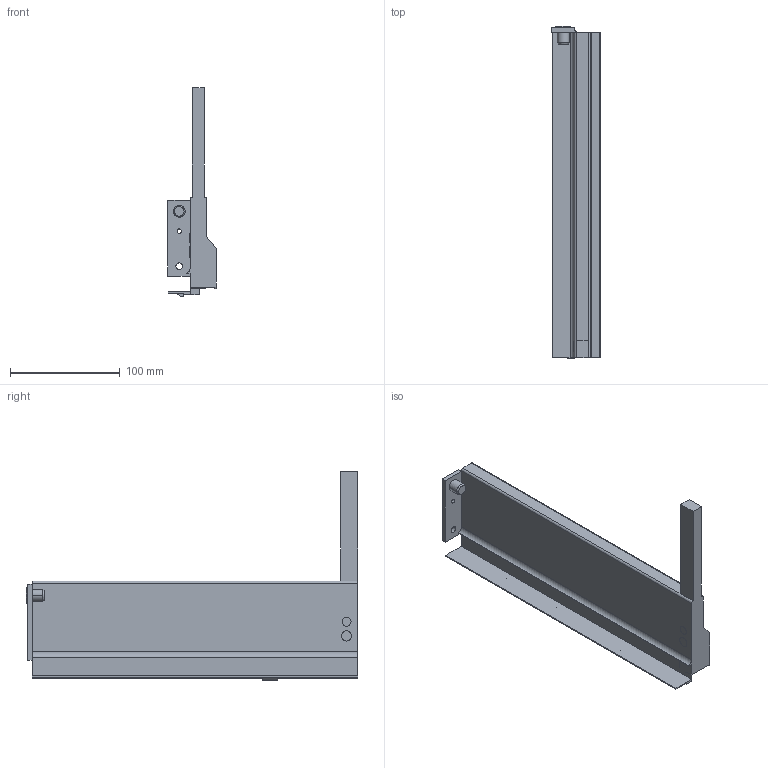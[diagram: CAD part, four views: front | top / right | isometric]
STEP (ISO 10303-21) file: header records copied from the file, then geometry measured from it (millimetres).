
FILE_DESCRIPTION (( 'STEP AP214' ), '1' );
FILE_NAME ('IMOS_NOVA-Pro_Crystal_Dekor-H90_CL_NL300_RE.step', '2010-09-28T09:46:54', ( 'Grass' ), ( '' ), 'SwSTEP 2.0', 'SolidWorks 2010', '' );
FILE_SCHEMA (( 'AUTOMOTIVE_DESIGN' ));
Length unit declared in the file: millimetre
Products named in the file (1): IMOS_NOVA-Pro_Crystal_Dekor-H90_CL_NL300_RE
Bounding box: 44.3 x 302.7 x 190.38 mm (x, y, z)
Volume: 289493.6 mm3; surface area: 111359.9 mm2
Topology: 1 solids, 1 shells, 94 faces, 256 edges, 169 vertices
Faces by surface type: plane 59, cylinder 30, cone 4, bspline 1
Entity records: 3009 total; most frequent: CARTESIAN_POINT 533, ORIENTED_EDGE 512, DIRECTION 506, EDGE_CURVE 256, LINE 190, VECTOR 190, VERTEX_POINT 169, AXIS2_PLACEMENT_3D 158
